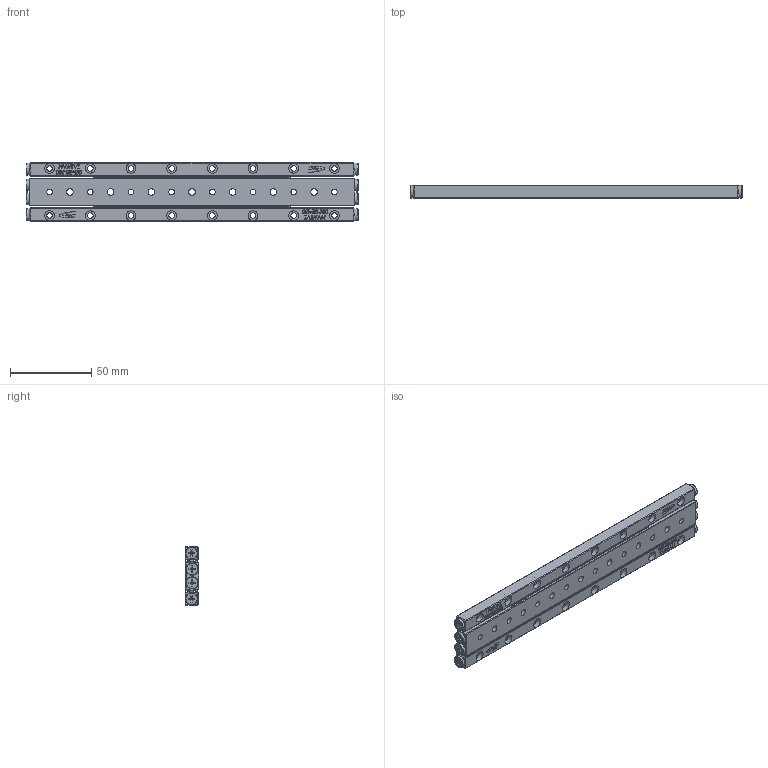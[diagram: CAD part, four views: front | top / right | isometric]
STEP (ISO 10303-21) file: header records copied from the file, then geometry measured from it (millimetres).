
FILE_DESCRIPTION (( 'STEP AP203' ), '1' );
FILE_NAME ('GBD03-200.STEP', '2023-11-20T08:20:40', ( '' ), ( '' ), 'SwSTEP 2.0', 'SolidWorks 2019', '' );
FILE_SCHEMA (( 'CONFIG_CONTROL_DESIGN' ));
Length unit declared in the file: millimetre
Products named in the file (4): GBD03-200; GBV03-200-模糊化軌道; GBD03-200-模糊化中軌; GBV03-200-模糊化保持器組
Assembly tree (5 placements, depth 2):
  GBD03-200
    GBD03-200-模糊化中軌
    GBV03-200-模糊化軌道  x2
    GBV03-200-模糊化保持器組  x2
Bounding box: 204 x 8.5 x 36 mm (x, y, z)
Volume: 48776.7 mm3; surface area: 32070.9 mm2
Topology: 5 solids, 5 shells, 1275 faces, 3341 edges, 2166 vertices
Faces by surface type: plane 792, bspline 234, sphere 96, cone 72, cylinder 65, torus 16
Full cylindrical faces by diameter (mm): 3.4 x16, 3.5 x8, 4 x7, 6 x24, 7.5 x8
Entity records: 33903 total; most frequent: CARTESIAN_POINT 14736, ORIENTED_EDGE 3978, DIRECTION 3297, EDGE_CURVE 1989, VERTEX_POINT 1310, VECTOR 1283, LINE 1283, EDGE_LOOP 1079
